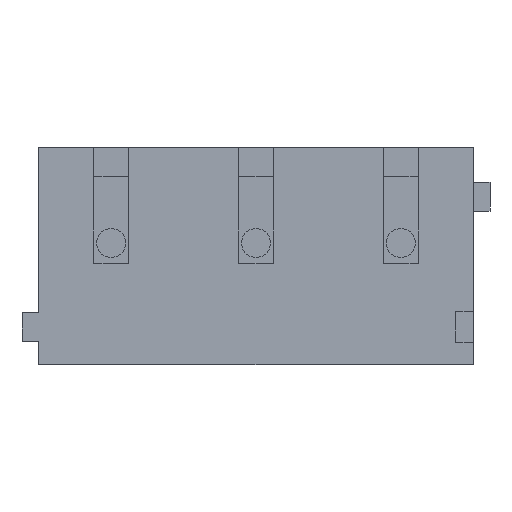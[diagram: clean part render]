
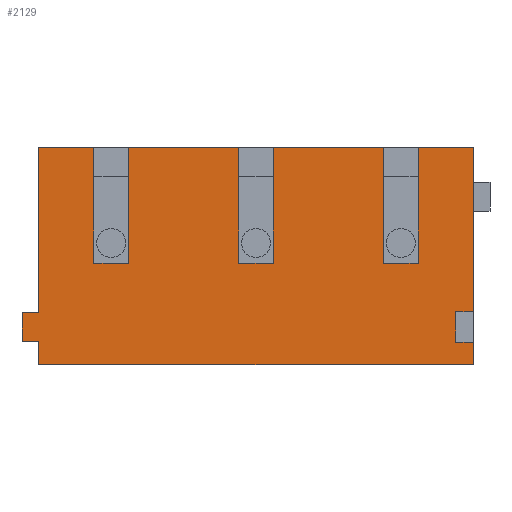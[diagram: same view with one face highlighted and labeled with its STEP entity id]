
A CAD part, front view. The second image highlights one B-rep face of the part: STEP entity #2129.
In plain terms, the highlighted planar face has unit normal (0, -1, 0).
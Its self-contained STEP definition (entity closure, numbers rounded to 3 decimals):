
#96=DIRECTION('',(0.,0.,-1.));
#97=VECTOR('',#96,5.7);
#98=CARTESIAN_POINT('',(-7.5,-5.,0.));
#99=LINE('',#98,#97);
#112=DIRECTION('',(0.,0.,-1.));
#113=VECTOR('',#112,0.8);
#114=CARTESIAN_POINT('',(-7.5,-5.,-6.7));
#115=LINE('',#114,#113);
#202=DIRECTION('',(1.,0.,0.));
#203=VECTOR('',#202,15.);
#204=CARTESIAN_POINT('',(-7.5,-5.,-7.5));
#205=LINE('',#204,#203);
#206=DIRECTION('',(0.,0.,-1.));
#207=VECTOR('',#206,4.);
#208=CARTESIAN_POINT('',(-5.6,-5.,0.));
#209=LINE('',#208,#207);
#210=DIRECTION('',(1.,0.,0.));
#211=VECTOR('',#210,1.2);
#212=CARTESIAN_POINT('',(-5.6,-5.,-4.));
#213=LINE('',#212,#211);
#214=DIRECTION('',(0.,0.,-1.));
#215=VECTOR('',#214,4.);
#216=CARTESIAN_POINT('',(-4.4,-5.,0.));
#217=LINE('',#216,#215);
#218=DIRECTION('',(1.,0.,0.));
#219=VECTOR('',#218,3.8);
#220=CARTESIAN_POINT('',(-4.4,-5.,0.));
#221=LINE('',#220,#219);
#222=DIRECTION('',(0.,0.,-1.));
#223=VECTOR('',#222,4.);
#224=CARTESIAN_POINT('',(-0.6,-5.,0.));
#225=LINE('',#224,#223);
#226=DIRECTION('',(1.,0.,0.));
#227=VECTOR('',#226,1.2);
#228=CARTESIAN_POINT('',(-0.6,-5.,-4.));
#229=LINE('',#228,#227);
#230=DIRECTION('',(0.,0.,-1.));
#231=VECTOR('',#230,4.);
#232=CARTESIAN_POINT('',(0.6,-5.,0.));
#233=LINE('',#232,#231);
#234=DIRECTION('',(1.,0.,0.));
#235=VECTOR('',#234,3.8);
#236=CARTESIAN_POINT('',(0.6,-5.,0.));
#237=LINE('',#236,#235);
#238=DIRECTION('',(0.,0.,-1.));
#239=VECTOR('',#238,4.);
#240=CARTESIAN_POINT('',(4.4,-5.,0.));
#241=LINE('',#240,#239);
#242=DIRECTION('',(1.,0.,0.));
#243=VECTOR('',#242,1.2);
#244=CARTESIAN_POINT('',(4.4,-5.,-4.));
#245=LINE('',#244,#243);
#246=DIRECTION('',(0.,0.,-1.));
#247=VECTOR('',#246,4.);
#248=CARTESIAN_POINT('',(5.6,-5.,0.));
#249=LINE('',#248,#247);
#250=DIRECTION('',(1.,0.,0.));
#251=VECTOR('',#250,1.9);
#252=CARTESIAN_POINT('',(5.6,-5.,0.));
#253=LINE('',#252,#251);
#254=DIRECTION('',(-1.,0.,0.));
#255=VECTOR('',#254,0.6);
#256=CARTESIAN_POINT('',(7.5,-5.,-5.675));
#257=LINE('',#256,#255);
#258=DIRECTION('',(0.,0.,-1.));
#259=VECTOR('',#258,1.05);
#260=CARTESIAN_POINT('',(6.9,-5.,-5.675));
#261=LINE('',#260,#259);
#262=DIRECTION('',(-1.,0.,0.));
#263=VECTOR('',#262,0.6);
#264=CARTESIAN_POINT('',(7.5,-5.,-6.725));
#265=LINE('',#264,#263);
#266=DIRECTION('',(-1.,0.,0.));
#267=VECTOR('',#266,0.58);
#268=CARTESIAN_POINT('',(-7.5,-5.,-6.7));
#269=LINE('',#268,#267);
#270=DIRECTION('',(1.,0.,0.));
#271=VECTOR('',#270,1.9);
#272=CARTESIAN_POINT('',(-7.5,-5.,0.));
#273=LINE('',#272,#271);
#419=DIRECTION('',(0.,0.,-1.));
#420=VECTOR('',#419,5.675);
#421=CARTESIAN_POINT('',(7.5,-5.,0.));
#422=LINE('',#421,#420);
#459=DIRECTION('',(0.,0.,-1.));
#460=VECTOR('',#459,0.775);
#461=CARTESIAN_POINT('',(7.5,-5.,-6.725));
#462=LINE('',#461,#460);
#844=DIRECTION('',(-1.,0.,0.));
#845=VECTOR('',#844,0.58);
#846=CARTESIAN_POINT('',(-7.5,-5.,-5.7));
#847=LINE('',#846,#845);
#848=DIRECTION('',(0.,0.,1.));
#849=VECTOR('',#848,1.);
#850=CARTESIAN_POINT('',(-8.08,-5.,-6.7));
#851=LINE('',#850,#849);
#1476=CARTESIAN_POINT('',(-7.5,-5.,-7.5));
#1478=VERTEX_POINT('',#1476);
#1486=CARTESIAN_POINT('',(-7.5,-5.,0.));
#1487=VERTEX_POINT('',#1486);
#1488=CARTESIAN_POINT('',(7.5,-5.,-7.5));
#1490=VERTEX_POINT('',#1488);
#1498=CARTESIAN_POINT('',(7.5,-5.,0.));
#1499=VERTEX_POINT('',#1498);
#1516=CARTESIAN_POINT('',(-8.08,-5.,-6.7));
#1517=CARTESIAN_POINT('',(-8.08,-5.,-5.7));
#1518=VERTEX_POINT('',#1516);
#1519=VERTEX_POINT('',#1517);
#1524=CARTESIAN_POINT('',(-7.5,-5.,-5.7));
#1526=VERTEX_POINT('',#1524);
#1530=CARTESIAN_POINT('',(-7.5,-5.,-6.7));
#1531=VERTEX_POINT('',#1530);
#1552=CARTESIAN_POINT('',(7.5,-5.,-6.725));
#1554=VERTEX_POINT('',#1552);
#1558=CARTESIAN_POINT('',(7.5,-5.,-5.675));
#1559=VERTEX_POINT('',#1558);
#1560=CARTESIAN_POINT('',(6.9,-5.,-5.675));
#1561=CARTESIAN_POINT('',(6.9,-5.,-6.725));
#1562=VERTEX_POINT('',#1560);
#1563=VERTEX_POINT('',#1561);
#1632=CARTESIAN_POINT('',(4.4,-5.,0.));
#1633=CARTESIAN_POINT('',(4.4,-5.,-4.));
#1634=VERTEX_POINT('',#1632);
#1635=VERTEX_POINT('',#1633);
#1636=CARTESIAN_POINT('',(5.6,-5.,-4.));
#1637=VERTEX_POINT('',#1636);
#1638=CARTESIAN_POINT('',(5.6,-5.,0.));
#1639=VERTEX_POINT('',#1638);
#1740=CARTESIAN_POINT('',(-0.6,-5.,-4.));
#1741=VERTEX_POINT('',#1740);
#1742=CARTESIAN_POINT('',(0.6,-5.,-4.));
#1743=VERTEX_POINT('',#1742);
#1788=CARTESIAN_POINT('',(-0.6,-5.,0.));
#1789=VERTEX_POINT('',#1788);
#1790=CARTESIAN_POINT('',(0.6,-5.,0.));
#1791=VERTEX_POINT('',#1790);
#1856=CARTESIAN_POINT('',(-5.6,-5.,-4.));
#1857=VERTEX_POINT('',#1856);
#1858=CARTESIAN_POINT('',(-4.4,-5.,-4.));
#1859=VERTEX_POINT('',#1858);
#1904=CARTESIAN_POINT('',(-5.6,-5.,0.));
#1905=VERTEX_POINT('',#1904);
#1906=CARTESIAN_POINT('',(-4.4,-5.,0.));
#1907=VERTEX_POINT('',#1906);
#2077=CARTESIAN_POINT('',(-7.5,-5.,0.));
#2078=DIRECTION('',(0.,-1.,0.));
#2079=DIRECTION('',(0.,0.,-1.));
#2080=AXIS2_PLACEMENT_3D('',#2077,#2078,#2079);
#2081=PLANE('',#2080);
#2083=ORIENTED_EDGE('',*,*,#2082,.T.);
#2085=ORIENTED_EDGE('',*,*,#2084,.T.);
#2087=ORIENTED_EDGE('',*,*,#2086,.F.);
#2089=ORIENTED_EDGE('',*,*,#2088,.T.);
#2091=ORIENTED_EDGE('',*,*,#2090,.T.);
#2093=ORIENTED_EDGE('',*,*,#2092,.T.);
#2095=ORIENTED_EDGE('',*,*,#2094,.F.);
#2097=ORIENTED_EDGE('',*,*,#2096,.T.);
#2099=ORIENTED_EDGE('',*,*,#2098,.T.);
#2101=ORIENTED_EDGE('',*,*,#2100,.T.);
#2103=ORIENTED_EDGE('',*,*,#2102,.F.);
#2105=ORIENTED_EDGE('',*,*,#2104,.T.);
#2107=ORIENTED_EDGE('',*,*,#2106,.T.);
#2109=ORIENTED_EDGE('',*,*,#2108,.T.);
#2111=ORIENTED_EDGE('',*,*,#2110,.T.);
#2113=ORIENTED_EDGE('',*,*,#2112,.F.);
#2115=ORIENTED_EDGE('',*,*,#2114,.T.);
#2116=ORIENTED_EDGE('',*,*,#2069,.F.);
#2117=ORIENTED_EDGE('',*,*,#1937,.F.);
#2119=ORIENTED_EDGE('',*,*,#2118,.T.);
#2121=ORIENTED_EDGE('',*,*,#2120,.T.);
#2123=ORIENTED_EDGE('',*,*,#2122,.F.);
#2124=ORIENTED_EDGE('',*,*,#1929,.F.);
#2126=ORIENTED_EDGE('',*,*,#2125,.T.);
#2127=EDGE_LOOP('',(#2083,#2085,#2087,#2089,#2091,#2093,#2095,#2097,#2099,#2101,
#2103,#2105,#2107,#2109,#2111,#2113,#2115,#2116,#2117,#2119,#2121,#2123,#2124,
#2126));
#2128=FACE_OUTER_BOUND('',#2127,.F.);
#2129=ADVANCED_FACE('',(#2128),#2081,.T.);
#1929=EDGE_CURVE('',#1487,#1526,#99,.T.);
#1937=EDGE_CURVE('',#1531,#1478,#115,.T.);
#2069=EDGE_CURVE('',#1478,#1490,#205,.T.);
#2082=EDGE_CURVE('',#1905,#1857,#209,.T.);
#2084=EDGE_CURVE('',#1857,#1859,#213,.T.);
#2086=EDGE_CURVE('',#1907,#1859,#217,.T.);
#2088=EDGE_CURVE('',#1907,#1789,#221,.T.);
#2090=EDGE_CURVE('',#1789,#1741,#225,.T.);
#2092=EDGE_CURVE('',#1741,#1743,#229,.T.);
#2094=EDGE_CURVE('',#1791,#1743,#233,.T.);
#2096=EDGE_CURVE('',#1791,#1634,#237,.T.);
#2098=EDGE_CURVE('',#1634,#1635,#241,.T.);
#2100=EDGE_CURVE('',#1635,#1637,#245,.T.);
#2102=EDGE_CURVE('',#1639,#1637,#249,.T.);
#2104=EDGE_CURVE('',#1639,#1499,#253,.T.);
#2106=EDGE_CURVE('',#1499,#1559,#422,.T.);
#2108=EDGE_CURVE('',#1559,#1562,#257,.T.);
#2110=EDGE_CURVE('',#1562,#1563,#261,.T.);
#2112=EDGE_CURVE('',#1554,#1563,#265,.T.);
#2114=EDGE_CURVE('',#1554,#1490,#462,.T.);
#2118=EDGE_CURVE('',#1531,#1518,#269,.T.);
#2120=EDGE_CURVE('',#1518,#1519,#851,.T.);
#2122=EDGE_CURVE('',#1526,#1519,#847,.T.);
#2125=EDGE_CURVE('',#1487,#1905,#273,.T.);
